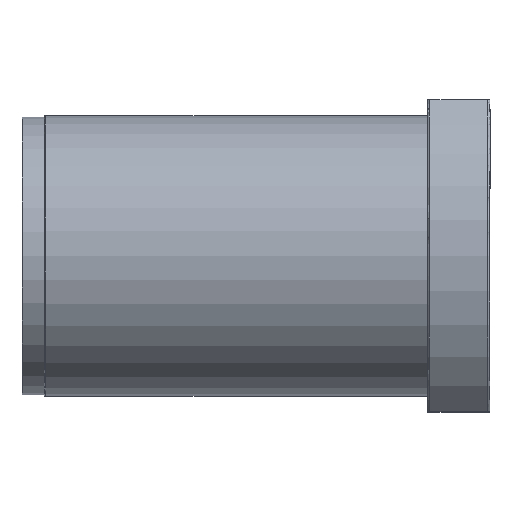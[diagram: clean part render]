
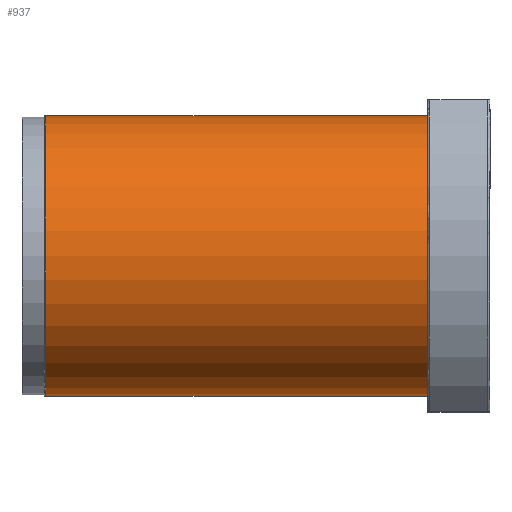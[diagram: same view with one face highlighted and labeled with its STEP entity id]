
A CAD part, top view. The second image highlights one B-rep face of the part: STEP entity #937.
In plain terms, the highlighted cylindrical face has radius 31.5 mm (diameter 63 mm), a partial arc.
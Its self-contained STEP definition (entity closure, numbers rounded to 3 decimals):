
#115 = VECTOR ( 'NONE', #1530, 1000. ) ;
#186 = AXIS2_PLACEMENT_3D ( 'NONE', #881, #697, #2275 ) ;
#201 = DIRECTION ( 'NONE',  ( 1., 0., 0. ) ) ;
#338 = CARTESIAN_POINT ( 'NONE',  ( -100., 31.5, 0. ) ) ;
#345 = ORIENTED_EDGE ( 'NONE', *, *, #1302, .F. ) ;
#409 = DIRECTION ( 'NONE',  ( 1., 0., 0. ) ) ;
#412 = VERTEX_POINT ( 'NONE', #1524 ) ;
#457 = CARTESIAN_POINT ( 'NONE',  ( 6.81, 31.5, 0. ) ) ;
#533 = CIRCLE ( 'NONE', #1641, 31.5 ) ;
#544 = EDGE_LOOP ( 'NONE', ( #599, #2165, #2287, #345 ) ) ;
#547 = LINE ( 'NONE', #338, #115 ) ;
#599 = ORIENTED_EDGE ( 'NONE', *, *, #686, .T. ) ;
#686 = EDGE_CURVE ( 'NONE', #1749, #2194, #2140, .T. ) ;
#697 = DIRECTION ( 'NONE',  ( 1., 0., 0. ) ) ;
#828 = CARTESIAN_POINT ( 'NONE',  ( -100., -31.5, 0. ) ) ;
#881 = CARTESIAN_POINT ( 'NONE',  ( -78.89, 0., 0. ) ) ;
#888 = CARTESIAN_POINT ( 'NONE',  ( 6.81, 0., 0. ) ) ;
#937 = ADVANCED_FACE ( 'NONE', ( #1150 ), #1676, .T. ) ;
#1134 = VERTEX_POINT ( 'NONE', #457 ) ;
#1150 = FACE_OUTER_BOUND ( 'NONE', #544, .T. ) ;
#1226 = LINE ( 'NONE', #828, #1761 ) ;
#1296 = DIRECTION ( 'NONE',  ( -1., 0., 0. ) ) ;
#1302 = EDGE_CURVE ( 'NONE', #1749, #1134, #547, .T. ) ;
#1375 = CARTESIAN_POINT ( 'NONE',  ( -100., 0., 0. ) ) ;
#1509 = EDGE_CURVE ( 'NONE', #412, #1134, #533, .T. ) ;
#1524 = CARTESIAN_POINT ( 'NONE',  ( 6.81, -31.5, 0. ) ) ;
#1530 = DIRECTION ( 'NONE',  ( 1., 0., 0. ) ) ;
#1641 = AXIS2_PLACEMENT_3D ( 'NONE', #888, #1296, #2475 ) ;
#1676 = CYLINDRICAL_SURFACE ( 'NONE', #1741, 31.5 ) ;
#1707 = DIRECTION ( 'NONE',  ( 0., 1., 0. ) ) ;
#1741 = AXIS2_PLACEMENT_3D ( 'NONE', #1375, #201, #1707 ) ;
#1749 = VERTEX_POINT ( 'NONE', #1788 ) ;
#1761 = VECTOR ( 'NONE', #409, 1000. ) ;
#1767 = EDGE_CURVE ( 'NONE', #2194, #412, #1226, .T. ) ;
#1788 = CARTESIAN_POINT ( 'NONE',  ( -78.89, 31.5, 0. ) ) ;
#2140 = CIRCLE ( 'NONE', #186, 31.5 ) ;
#2165 = ORIENTED_EDGE ( 'NONE', *, *, #1767, .T. ) ;
#2194 = VERTEX_POINT ( 'NONE', #2516 ) ;
#2275 = DIRECTION ( 'NONE',  ( 0., 1., 0. ) ) ;
#2287 = ORIENTED_EDGE ( 'NONE', *, *, #1509, .T. ) ;
#2475 = DIRECTION ( 'NONE',  ( 0., 1., 0. ) ) ;
#2516 = CARTESIAN_POINT ( 'NONE',  ( -78.89, -31.5, 0. ) ) ;
